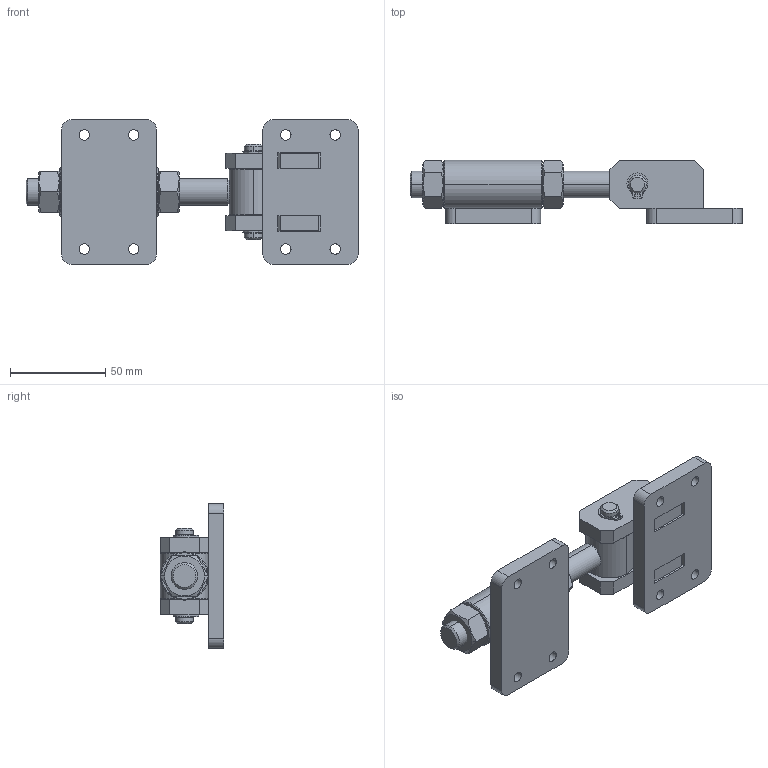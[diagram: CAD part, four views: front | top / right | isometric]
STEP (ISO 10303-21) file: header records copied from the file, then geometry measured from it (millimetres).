
FILE_DESCRIPTION (( 'STEP AP203' ), '1' );
FILE_NAME ('KFD-14.step', '2011-05-12T14:47:42', ( 'Usuario' ), ( '' ), 'SwSTEP 2.0', 'SolidWorks 2011', '' );
FILE_SCHEMA (( 'CONFIG_CONTROL_DESIGN' ));
Length unit declared in the file: millimetre
Products named in the file (10): KFD-14; 501-009; 11.50008; 03.20046; 16.20065; 05.20026; 05.20025; 15.10050; 02.10025; 02.10024
Assembly tree (12 placements, depth 2):
  KFD-14
    03.20046
    02.10025
    501-009  x2
    05.20026
    15.10050  x2
    16.20065
    11.50008  x2
    02.10024
    05.20025
Bounding box: 174.7 x 33.34 x 76 mm (x, y, z)
Volume: 130302.5 mm3; surface area: 49386.8 mm2
Topology: 12 solids, 12 shells, 212 faces, 528 edges, 344 vertices
Faces by surface type: plane 98, cylinder 82, cone 32
Entity records: 5816 total; most frequent: CARTESIAN_POINT 909, DIRECTION 846, ORIENTED_EDGE 740, EDGE_CURVE 370, AXIS2_PLACEMENT_3D 321, VERTEX_POINT 240, LINE 204, VECTOR 204
